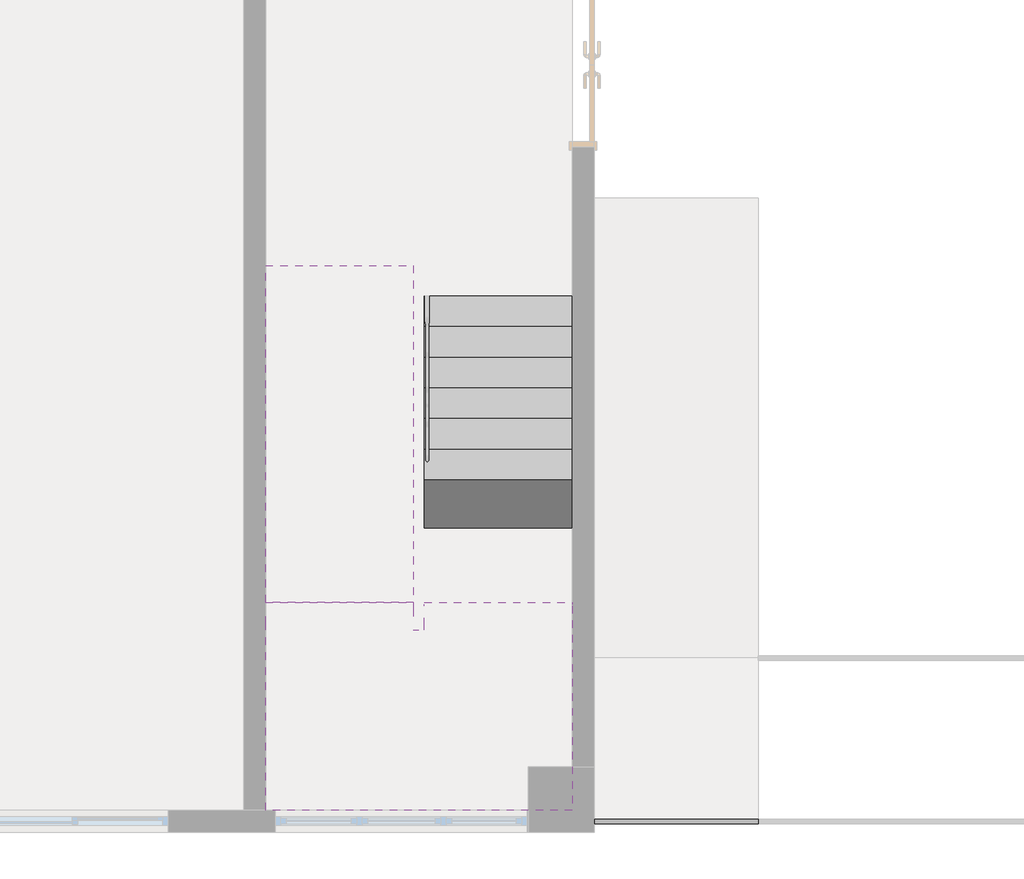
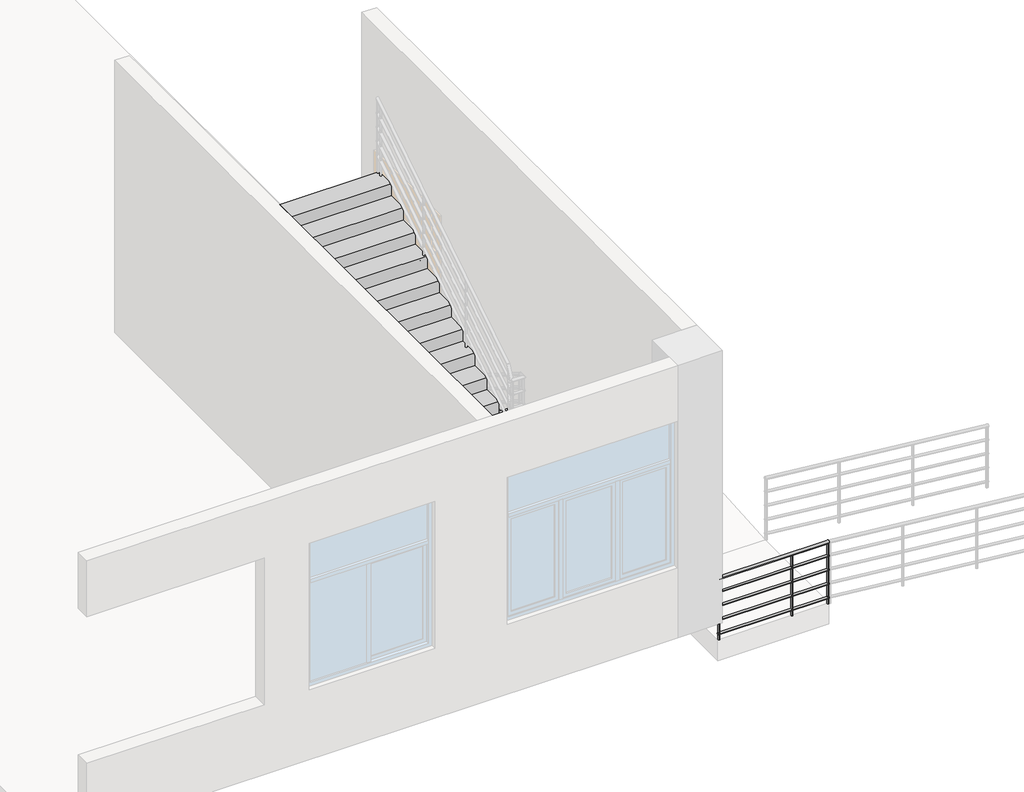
# One storey, part 3 of 5: 2 stair flights, 1 railing, 1 slab.
"""IFC4 building model written with IfcOpenShell, lengths in millimetres."""

from ifc_helpers import new_model, si_unit, point, frame, frame_2d, origin, place, context, project, spatial, circle_curve, trimmed, segment, composite_curve, outline, extrude, faceted_brep, element, save

model = new_model("IFC4")

# Units and contexts
model_context = context("Model", 3, world=origin())
ifc_project = project(units=[si_unit("LENGTHUNIT", "METRE", prefix="MILLI")], contexts=[model_context])

# Site, building, storey
site = spatial("IfcSite", under=ifc_project)
building = spatial("IfcBuilding", under=site)
storey = spatial("IfcBuildingStorey", under=building, Name="标高 3", Elevation=3200.0)

# Railing
placement = place(None, origin())
element("IfcRailing", 1, ObjectType="900mm 圆管", at=placement, inside=storey, context=model_context, shape_type="SweptSolid", body=[
    extrude(outline(composite_curve([segment(trimmed(circle_curve(frame_2d((-10436.6725016, 3780.0)), 20.0), [point((-10456.6725016, 3780.0))], [point((-10416.6725016, 3780.0))], False, "CARTESIAN"), True, "CONTINUOUS"), segment(trimmed(circle_curve(frame_2d((-10436.6725016, 3780.0)), 20.0), [point((-10416.6725016, 3780.0))], [point((-10456.6725016, 3780.0))], False, "CARTESIAN"), True, "CONTINUOUS")], self_intersect=False)), frame((13918.2324742, 0.0, 0.0), z_axis=(1.0, 0.0, 0.0), x_axis=(0.0, 1.0, 0.0)), (0.0, 0.0, 1.0), 1500.0),
    extrude(outline(composite_curve([segment(trimmed(circle_curve(frame_2d((-10436.6725016, 3585.0)), 15.0), [point((-10421.6725016, 3585.0))], [point((-10451.6725016, 3585.0))], False, "CARTESIAN"), True, "CONTINUOUS"), segment(trimmed(circle_curve(frame_2d((-10436.6725016, 3585.0)), 15.0), [point((-10451.6725016, 3585.0))], [point((-10421.6725016, 3585.0))], False, "CARTESIAN"), True, "CONTINUOUS")], self_intersect=False)), frame((13918.2324742, 0.0, 0.0), z_axis=(1.0, 0.0, 0.0), x_axis=(0.0, 1.0, 0.0)), (0.0, 0.0, 1.0), 1500.0),
    extrude(outline(composite_curve([segment(trimmed(circle_curve(frame_2d((-10436.6725016, 3385.0)), 15.0), [point((-10421.6725016, 3385.0))], [point((-10451.6725016, 3385.0))], False, "CARTESIAN"), True, "CONTINUOUS"), segment(trimmed(circle_curve(frame_2d((-10436.6725016, 3385.0)), 15.0), [point((-10451.6725016, 3385.0))], [point((-10421.6725016, 3385.0))], False, "CARTESIAN"), True, "CONTINUOUS")], self_intersect=False)), frame((13918.2324742, 0.0, 0.0), z_axis=(1.0, 0.0, 0.0), x_axis=(0.0, 1.0, 0.0)), (0.0, 0.0, 1.0), 1500.0),
    extrude(outline(composite_curve([segment(trimmed(circle_curve(frame_2d((-10436.6725016, 3185.0)), 15.0), [point((-10421.6725016, 3185.0))], [point((-10451.6725016, 3185.0))], False, "CARTESIAN"), True, "CONTINUOUS"), segment(trimmed(circle_curve(frame_2d((-10436.6725016, 3185.0)), 15.0), [point((-10451.6725016, 3185.0))], [point((-10421.6725016, 3185.0))], False, "CARTESIAN"), True, "CONTINUOUS")], self_intersect=False)), frame((13918.2324742, 0.0, 0.0), z_axis=(1.0, 0.0, 0.0), x_axis=(0.0, 1.0, 0.0)), (0.0, 0.0, 1.0), 1500.0),
    extrude(outline(composite_curve([segment(trimmed(circle_curve(frame_2d((-10436.6725016, 2985.0)), 15.0), [point((-10421.6725016, 2985.0))], [point((-10451.6725016, 2985.0))], False, "CARTESIAN"), True, "CONTINUOUS"), segment(trimmed(circle_curve(frame_2d((-10436.6725016, 2985.0)), 15.0), [point((-10451.6725016, 2985.0))], [point((-10421.6725016, 2985.0))], False, "CARTESIAN"), True, "CONTINUOUS")], self_intersect=False)), frame((13918.2324742, 0.0, 0.0), z_axis=(1.0, 0.0, 0.0), x_axis=(0.0, 1.0, 0.0)), (0.0, 0.0, 1.0), 1500.0),
    extrude(outline(composite_curve([segment(trimmed(circle_curve(frame_2d((14918.2324742, -10436.6725016)), 12.5), [point((14918.2324742, -10424.1725016))], [point((14918.2324742, -10449.1725016))], False, "CARTESIAN"), True, "CONTINUOUS"), segment(trimmed(circle_curve(frame_2d((14918.2324742, -10436.6725016)), 12.5), [point((14918.2324742, -10449.1725016))], [point((14918.2324742, -10424.1725016))], False, "CARTESIAN"), True, "CONTINUOUS")], self_intersect=False)), frame((0.0, 0.0, 2900.0), z_axis=(0.0, 0.0, 1.0), x_axis=(1.0, 0.0, 0.0)), (0.0, 0.0, 1.0), 860.0),
    extrude(outline(composite_curve([segment(trimmed(circle_curve(frame_2d((15405.7324742, -10436.6725016)), 12.5), [point((15405.7324742, -10424.1725016))], [point((15405.7324742, -10449.1725016))], False, "CARTESIAN"), True, "CONTINUOUS"), segment(trimmed(circle_curve(frame_2d((15405.7324742, -10436.6725016)), 12.5), [point((15405.7324742, -10449.1725016))], [point((15405.7324742, -10424.1725016))], False, "CARTESIAN"), True, "CONTINUOUS")], self_intersect=False)), frame((0.0, 0.0, 2900.0), z_axis=(0.0, 0.0, 1.0), x_axis=(1.0, 0.0, 0.0)), (0.0, 0.0, 1.0), 860.0),
    extrude(outline(composite_curve([segment(trimmed(circle_curve(frame_2d((13930.7324742, -10436.6725016)), 12.5), [point((13930.7324742, -10424.1725016))], [point((13930.7324742, -10449.1725016))], False, "CARTESIAN"), True, "CONTINUOUS"), segment(trimmed(circle_curve(frame_2d((13930.7324742, -10436.6725016)), 12.5), [point((13930.7324742, -10449.1725016))], [point((13930.7324742, -10424.1725016))], False, "CARTESIAN"), True, "CONTINUOUS")], self_intersect=False)), frame((0.0, 0.0, 2900.0), z_axis=(0.0, 0.0, 1.0), x_axis=(1.0, 0.0, 0.0)), (0.0, 0.0, 1.0), 860.0),
])

# Slab
element("IfcSlab", 2, ObjectType="150", at=placement, inside=storey, context=model_context, shape_type="Brep", body=[
    faceted_brep([(12268.2324742, -8686.1866952, 5150.0), (12268.2324742, -8436.6725016, 5150.0), (10918.2324742, -8436.6725016, 5150.0), (10918.2324742, -8686.1866952, 5150.0), (10918.2324742, -10336.6725016, 5150.0), (13718.2324742, -10336.6725016, 5150.0), (13718.2324742, -8467.158308, 5150.0), (13718.2324742, -8436.6725016, 5150.0), (12368.2324742, -8436.6725016, 5150.0), (12368.2324742, -8686.1866952, 5150.0), (13718.2324742, -8436.6725016, 4972.7272727), (13718.2324742, -8436.6725016, 4830.6989213), (12368.2324742, -8436.6725016, 4830.6989213), (12368.2324742, -8436.6725016, 4972.7272727), (12368.2324742, -8467.158308, 4850.0), (12368.2324742, -8686.1866952, 4850.0), (10918.2324742, -8436.6725016, 5007.9716485), (10918.2324742, -8686.1866952, 4850.0), (10918.2324742, -10336.6725016, 4850.0), (13718.2324742, -10336.6725016, 4850.0), (13718.2324742, -8467.158308, 4850.0), (12268.2324742, -8686.1866952, 4850.0), (12268.2324742, -8436.6725016, 5007.9716485)], [[[0, 1, 2, 3, 4, 5, 6, 7, 8, 9]], [[8, 7, 10, 11, 12, 13]], [[8, 13, 12, 14, 15, 9]], [[2, 16, 17, 18, 4, 3]], [[5, 4, 18, 19]], [[5, 19, 20, 11, 10, 7, 6]], [[15, 14, 20, 19, 18, 17, 21]], [[20, 14, 12, 11]], [[22, 21, 17, 16]], [[0, 21, 22, 1]], [[2, 1, 22, 16]], [[15, 21, 0, 9]]]),
])

# Stair flights
element("IfcStairFlight", 3, ObjectType="150", at=placement, inside=storey, context=model_context, shape_type="Brep", body=[
    faceted_brep([(13718.2324742, -5916.6725016, 3377.2727273), (13718.2324742, -5636.6725016, 3377.2727273), (12368.2324742, -5636.6725016, 3377.2727273), (12368.2324742, -5916.6725016, 3377.2727273), (13718.2324742, -5916.6725016, 3235.2443758), (13718.2324742, -5861.0044619, 3200.0), (13718.2324742, -5636.6725016, 3200.0), (12368.2324742, -5636.6725016, 3200.0), (12368.2324742, -5861.0044619, 3200.0), (12368.2324742, -5916.6725016, 3235.2443758), (13718.2324742, -6196.6725016, 3554.5454545), (13718.2324742, -5916.6725016, 3554.5454545), (12368.2324742, -5916.6725016, 3554.5454545), (12368.2324742, -6196.6725016, 3554.5454545), (13718.2324742, -6196.6725016, 3412.5171031), (12368.2324742, -6196.6725016, 3412.5171031), (13718.2324742, -6476.6725016, 3731.8181818), (13718.2324742, -6196.6725016, 3731.8181818), (12368.2324742, -6196.6725016, 3731.8181818), (12368.2324742, -6476.6725016, 3731.8181818), (13718.2324742, -6476.6725016, 3589.7898303), (12368.2324742, -6476.6725016, 3589.7898303), (13718.2324742, -6756.6725016, 3909.0909091), (13718.2324742, -6476.6725016, 3909.0909091), (12368.2324742, -6476.6725016, 3909.0909091), (12368.2324742, -6756.6725016, 3909.0909091), (13718.2324742, -6756.6725016, 3767.0625576), (12368.2324742, -6756.6725016, 3767.0625576), (13718.2324742, -7036.6725016, 4086.3636364), (13718.2324742, -6756.6725016, 4086.3636364), (12368.2324742, -6756.6725016, 4086.3636364), (12368.2324742, -7036.6725016, 4086.3636364), (13718.2324742, -7036.6725016, 3944.3352849), (12368.2324742, -7036.6725016, 3944.3352849), (13718.2324742, -7316.6725016, 4263.6363636), (13718.2324742, -7036.6725016, 4263.6363636), (12368.2324742, -7036.6725016, 4263.6363636), (12368.2324742, -7316.6725016, 4263.6363636), (13718.2324742, -7316.6725016, 4121.6080122), (12368.2324742, -7316.6725016, 4121.6080122), (13718.2324742, -7596.6725016, 4440.9090909), (13718.2324742, -7316.6725016, 4440.9090909), (12368.2324742, -7316.6725016, 4440.9090909), (12368.2324742, -7596.6725016, 4440.9090909), (13718.2324742, -7596.6725016, 4298.8807394), (12368.2324742, -7596.6725016, 4298.8807394), (13718.2324742, -7876.6725016, 4618.1818182), (13718.2324742, -7596.6725016, 4618.1818182), (12368.2324742, -7596.6725016, 4618.1818182), (12368.2324742, -7876.6725016, 4618.1818182), (13718.2324742, -7876.6725016, 4476.1534667), (12368.2324742, -7876.6725016, 4476.1534667), (13718.2324742, -8156.6725016, 4795.4545455), (13718.2324742, -7876.6725016, 4795.4545455), (12368.2324742, -7876.6725016, 4795.4545455), (12368.2324742, -8156.6725016, 4795.4545455), (13718.2324742, -8156.6725016, 4653.426194), (12368.2324742, -8156.6725016, 4653.426194), (13718.2324742, -8436.6725016, 4972.7272727), (13718.2324742, -8156.6725016, 4972.7272727), (12368.2324742, -8156.6725016, 4972.7272727), (12368.2324742, -8436.6725016, 4972.7272727), (13718.2324742, -8436.6725016, 4830.6989213), (12368.2324742, -8436.6725016, 4830.6989213)], [[[0, 1, 2, 3]], [[1, 0, 4, 5, 6]], [[2, 1, 6, 7]], [[3, 2, 7, 8, 9]], [[10, 11, 12, 13]], [[11, 10, 14, 4, 0]], [[0, 3, 12, 11]], [[13, 12, 3, 9, 15]], [[16, 17, 18, 19]], [[17, 16, 20, 14, 10]], [[10, 13, 18, 17]], [[19, 18, 13, 15, 21]], [[22, 23, 24, 25]], [[23, 22, 26, 20, 16]], [[16, 19, 24, 23]], [[25, 24, 19, 21, 27]], [[28, 29, 30, 31]], [[29, 28, 32, 26, 22]], [[22, 25, 30, 29]], [[31, 30, 25, 27, 33]], [[34, 35, 36, 37]], [[35, 34, 38, 32, 28]], [[28, 31, 36, 35]], [[37, 36, 31, 33, 39]], [[40, 41, 42, 43]], [[41, 40, 44, 38, 34]], [[34, 37, 42, 41]], [[43, 42, 37, 39, 45]], [[46, 47, 48, 49]], [[47, 46, 50, 44, 40]], [[40, 43, 48, 47]], [[49, 48, 43, 45, 51]], [[52, 53, 54, 55]], [[53, 52, 56, 50, 46]], [[46, 49, 54, 53]], [[55, 54, 49, 51, 57]], [[58, 59, 60, 61]], [[59, 58, 62, 56, 52]], [[52, 55, 60, 59]], [[61, 60, 55, 57, 63]], [[58, 61, 63, 62]], [[7, 6, 5, 8]], [[8, 5, 4, 14, 20, 26, 32, 38, 44, 50, 56, 62, 63, 57, 51, 45, 39, 33, 27, 21, 15, 9]]]),
])
element("IfcStairFlight", 4, ObjectType="150", at=placement, inside=storey, context=model_context, shape_type="Brep", body=[
    faceted_brep([(10918.2324742, -8156.6725016, 5327.2727273), (10918.2324742, -8436.6725016, 5327.2727273), (12268.2324742, -8436.6725016, 5327.2727273), (12268.2324742, -8156.6725016, 5327.2727273), (10918.2324742, -8156.6725016, 5185.2443758), (10918.2324742, -8436.6725016, 5007.9716485), (10918.2324742, -8436.6725016, 5150.0), (12268.2324742, -8436.6725016, 5007.9716485), (12268.2324742, -8436.6725016, 5150.0), (12268.2324742, -8156.6725016, 5185.2443758), (10918.2324742, -7876.6725016, 5504.5454545), (10918.2324742, -8156.6725016, 5504.5454545), (12268.2324742, -8156.6725016, 5504.5454545), (12268.2324742, -7876.6725016, 5504.5454545), (10918.2324742, -7876.6725016, 5362.5171031), (12268.2324742, -7876.6725016, 5362.5171031), (10918.2324742, -7596.6725016, 5681.8181818), (10918.2324742, -7876.6725016, 5681.8181818), (12268.2324742, -7876.6725016, 5681.8181818), (12268.2324742, -7596.6725016, 5681.8181818), (10918.2324742, -7596.6725016, 5539.7898303), (12268.2324742, -7596.6725016, 5539.7898303), (10918.2324742, -7316.6725016, 5859.0909091), (10918.2324742, -7596.6725016, 5859.0909091), (12268.2324742, -7596.6725016, 5859.0909091), (12268.2324742, -7316.6725016, 5859.0909091), (10918.2324742, -7316.6725016, 5717.0625576), (12268.2324742, -7316.6725016, 5717.0625576), (10918.2324742, -7036.6725016, 6036.3636364), (10918.2324742, -7316.6725016, 6036.3636364), (12268.2324742, -7316.6725016, 6036.3636364), (12268.2324742, -7036.6725016, 6036.3636364), (10918.2324742, -7036.6725016, 5894.3352849), (12268.2324742, -7036.6725016, 5894.3352849), (10918.2324742, -6756.6725016, 6213.6363636), (10918.2324742, -7036.6725016, 6213.6363636), (12268.2324742, -7036.6725016, 6213.6363636), (12268.2324742, -6756.6725016, 6213.6363636), (10918.2324742, -6756.6725016, 6071.6080122), (12268.2324742, -6756.6725016, 6071.6080122), (10918.2324742, -6476.6725016, 6390.9090909), (10918.2324742, -6756.6725016, 6390.9090909), (12268.2324742, -6756.6725016, 6390.9090909), (12268.2324742, -6476.6725016, 6390.9090909), (10918.2324742, -6476.6725016, 6248.8807394), (12268.2324742, -6476.6725016, 6248.8807394), (10918.2324742, -6196.6725016, 6568.1818182), (10918.2324742, -6476.6725016, 6568.1818182), (12268.2324742, -6476.6725016, 6568.1818182), (12268.2324742, -6196.6725016, 6568.1818182), (10918.2324742, -6196.6725016, 6426.1534667), (12268.2324742, -6196.6725016, 6426.1534667), (10918.2324742, -5916.6725016, 6745.4545455), (10918.2324742, -6196.6725016, 6745.4545455), (12268.2324742, -6196.6725016, 6745.4545455), (12268.2324742, -5916.6725016, 6745.4545455), (10918.2324742, -5916.6725016, 6603.426194), (12268.2324742, -5916.6725016, 6603.426194), (10918.2324742, -5636.6725016, 6922.7272727), (10918.2324742, -5916.6725016, 6922.7272727), (12268.2324742, -5916.6725016, 6922.7272727), (12268.2324742, -5636.6725016, 6922.7272727), (10918.2324742, -5636.6725016, 6780.6989213), (12268.2324742, -5636.6725016, 6780.6989213), (10918.2324742, -5356.6725016, 6957.9716485), (12268.2324742, -5356.6725016, 6957.9716485), (10918.2324742, -5356.6725016, 7100.0), (10918.2324742, -5636.6725016, 7100.0), (12268.2324742, -5636.6725016, 7100.0), (12268.2324742, -5356.6725016, 7100.0)], [[[0, 1, 2, 3]], [[1, 0, 4, 5, 6]], [[2, 1, 6, 5, 7, 8]], [[3, 2, 8, 7, 9]], [[10, 11, 12, 13]], [[11, 10, 14, 4, 0]], [[12, 11, 0, 3]], [[13, 12, 3, 9, 15]], [[16, 17, 18, 19]], [[17, 16, 20, 14, 10]], [[18, 17, 10, 13]], [[19, 18, 13, 15, 21]], [[22, 23, 24, 25]], [[23, 22, 26, 20, 16]], [[24, 23, 16, 19]], [[25, 24, 19, 21, 27]], [[28, 29, 30, 31]], [[29, 28, 32, 26, 22]], [[30, 29, 22, 25]], [[31, 30, 25, 27, 33]], [[34, 35, 36, 37]], [[35, 34, 38, 32, 28]], [[36, 35, 28, 31]], [[37, 36, 31, 33, 39]], [[40, 41, 42, 43]], [[41, 40, 44, 38, 34]], [[42, 41, 34, 37]], [[43, 42, 37, 39, 45]], [[46, 47, 48, 49]], [[47, 46, 50, 44, 40]], [[48, 47, 40, 43]], [[49, 48, 43, 45, 51]], [[52, 53, 54, 55]], [[53, 52, 56, 50, 46]], [[54, 53, 46, 49]], [[55, 54, 49, 51, 57]], [[58, 59, 60, 61]], [[59, 58, 62, 56, 52]], [[60, 59, 52, 55]], [[61, 60, 55, 57, 63]], [[5, 4, 14, 20, 26, 32, 38, 44, 50, 56, 62, 64, 65, 63, 57, 51, 45, 39, 33, 27, 21, 15, 9, 7]], [[66, 67, 68, 69]], [[67, 66, 64, 62, 58]], [[68, 67, 58, 61]], [[69, 68, 61, 63, 65]], [[66, 69, 65, 64]]]),
])

save(model, "model.ifc")
